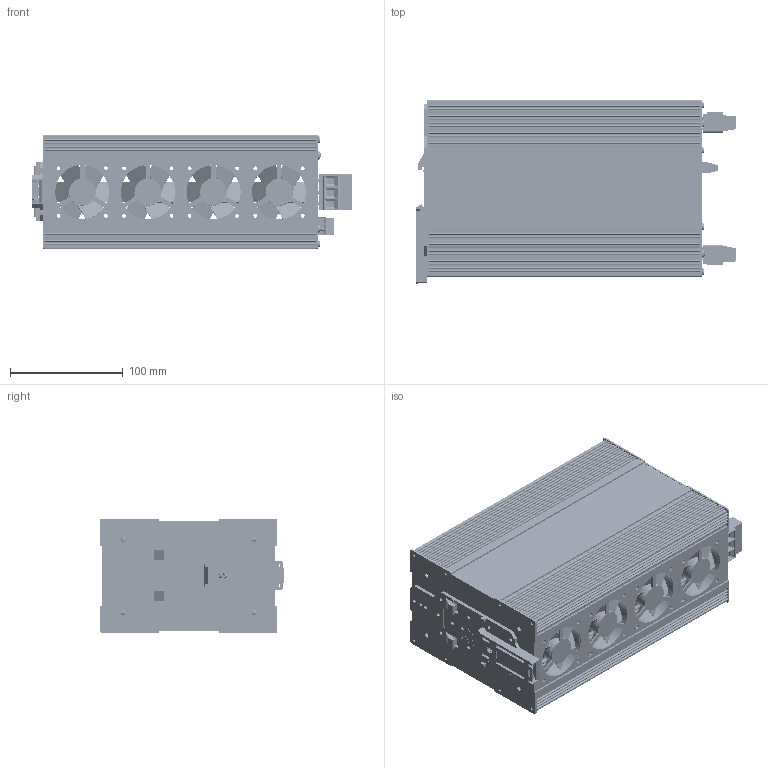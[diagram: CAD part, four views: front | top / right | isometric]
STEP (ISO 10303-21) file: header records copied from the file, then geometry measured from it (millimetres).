
FILE_DESCRIPTION(/* description */ (''),/* implementation_level */ '2;1');
FILE_NAME(/* name */ 'D:\01-KEVOLTA\PRODUITS\PROJET PRODUIT\KPS_series_A\PLAN\Boitier assemblé\KPS_SERIES_A_RD.stp',/* time_stamp */ '2025-08-31T21:36:26+02:00',/* author */ ('Julien'),/* organization */ (''),/* preprocessor_version */ 'ST-DEVELOPER v18.1',/* originating_system */ 'Autodesk Inventor 2021',/* authorisation */ '');
FILE_SCHEMA (('AUTOMOTIVE_DESIGN { 1 0 10303 214 3 1 1 }'));
Products named in the file (9): KPS_SERIES_A_DIN; KPS_series_A; FACE_ARR; UTA 159 RAIL DIN; item_8000005_vis_chc_tete_bombee_m4x16_details_3; item_8000760_vis_chc_tete_bombee_m3x8_details_3; KBA-240-FAN; KPS_series_240_FAN; 512f-rs0
Assembly tree (22 placements, depth 2):
  KPS_SERIES_A_DIN
    KPS_series_A
    FACE_ARR
    UTA 159 RAIL DIN
    item_8000005_vis_chc_tete_bombee_m4x16_details_3  x4
    item_8000760_vis_chc_tete_bombee_m3x8_details_3  x8
    KBA-240-FAN
    KPS_series_240_FAN  x2
    512f-rs0  x4
Bounding box: 283.14 x 162.8 x 101.3 mm (x, y, z)
Volume: 448833.2 mm3; surface area: 504441.3 mm2
Topology: 1299 solids, 1518 shells, 9001 faces, 32006 edges, 25920 vertices
Faces by surface type: plane 4791, cylinder 4117, cone 47, torus 28, bspline 18
Full cylindrical faces by diameter (mm): 0.45 x1600, 0.457 x2, 0.5 x640, 0.55 x160, 0.6 x64, 0.8 x640, 0.9 x64, 1 x1, 1.25 x9, 1.3 x6, 1.35 x8, 1.4 x12, 1.45 x48, 1.5 x36, 2.4 x8, 2.6 x4, 3 x8, 3.15 x24, 3.2 x16, 3.3 x16, 3.5 x24, 3.65 x96, 3.7 x96, 3.8 x3, 4 x7, 4.2 x4, 4.25 x12, 4.3 x8, 4.5 x6, 5 x6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
Entity records: 275409 total; most frequent: CARTESIAN_POINT 52554, DIRECTION 47896, ORIENTED_EDGE 41475, EDGE_CURVE 23672, VERTEX_POINT 19269, AXIS2_PLACEMENT_3D 17846, LINE 12204, VECTOR 12204
